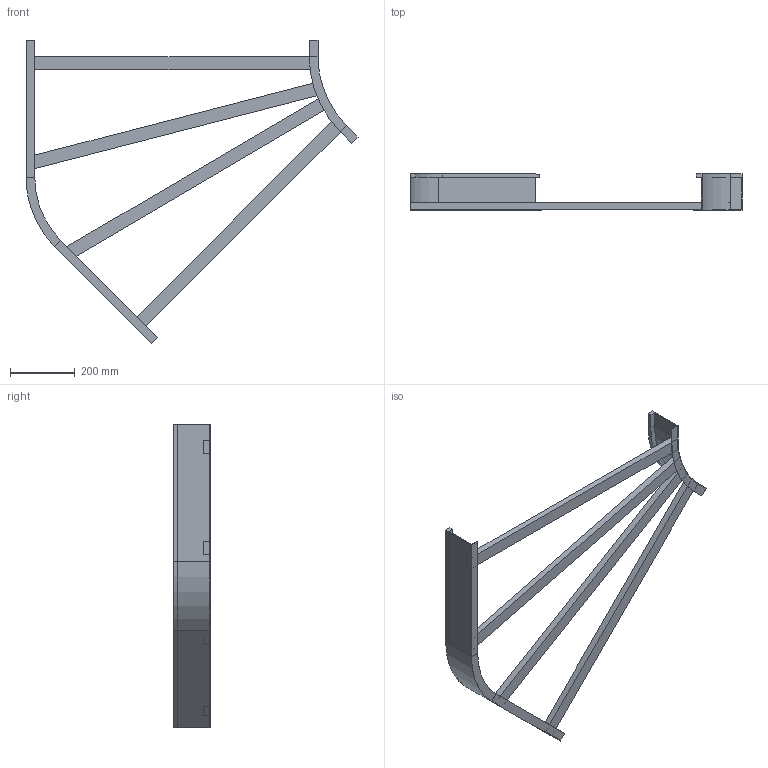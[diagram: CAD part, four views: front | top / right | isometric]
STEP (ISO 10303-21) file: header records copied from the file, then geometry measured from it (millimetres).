
FILE_DESCRIPTION (( 'STEP AP214' ), '1' );
FILE_NAME ('B2_11B3J900.step', '2025-02-21T15:15:12', ( '' ), ( '' ), 'SwSTEP 2.0', 'SolidWorks 2023', '' );
FILE_SCHEMA (( 'AUTOMOTIVE_DESIGN' ));
Length unit declared in the file: millimetre
Products named in the file (5): B2_11B3J900; B2_LONGH.ESTERNO 45°_H112.5_R300+900; TRAVERSINO_900; B2_LONGH.INTERNO 45°_H112.5_R300; TRAVERSINO_1000_SCANTONATO
Assembly tree (6 placements, depth 2):
  B2_11B3J900
    B2_LONGH.INTERNO 45°_H112.5_R300
    B2_LONGH.ESTERNO 45°_H112.5_R300+900
    TRAVERSINO_900  x2
    TRAVERSINO_1000_SCANTONATO  x2
Bounding box: 1023.22 x 112.5 x 933.88 mm (x, y, z)
Volume: 3636202.6 mm3; surface area: 893382.6 mm2
Topology: 6 solids, 6 shells, 76 faces, 160 edges, 96 vertices
Faces by surface type: plane 68, cylinder 8
Entity records: 1830 total; most frequent: DIRECTION 298, CARTESIAN_POINT 289, ORIENTED_EDGE 272, EDGE_CURVE 136, VECTOR 120, LINE 120, AXIS2_PLACEMENT_3D 89, VERTEX_POINT 80
